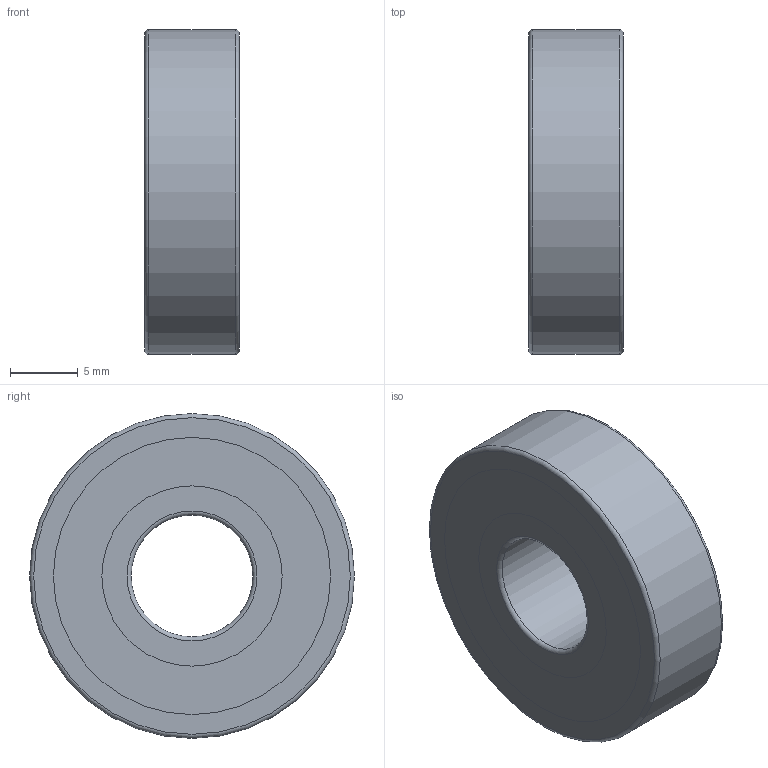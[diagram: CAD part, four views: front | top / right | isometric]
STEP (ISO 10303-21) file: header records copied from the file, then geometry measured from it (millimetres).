
FILE_DESCRIPTION(/* description */ (''),/* implementation_level */ '2;1');
FILE_NAME(/* name */ 'D:\moje\parametrické\62-,60-\rada 62-,60-2RSR,ZR\62-,60--2RSR\609-2RSR.stp',/* time_stamp */ '2016-04-04T13:26:14+02:00',/* author */ ('OUBALASKO'),/* organization */ (''),/* preprocessor_version */ 'ST-DEVELOPER v15.2',/* originating_system */ 'Autodesk Inventor 2014',/* authorisation */ '');
FILE_SCHEMA (('AUTOMOTIVE_DESIGN { 1 0 10303 214 3 1 1 }'));
Length unit declared in the file: millimetre
Products named in the file (6): 609-02-2RSR; 609-ball; 609-cage; 609-01-2RSR; 609-seal-RSR,ZR; 609-2RSR
Bounding box: 7 x 24 x 24 mm (x, y, z)
Volume: 1925.1 mm3; surface area: 3522.2 mm2
Topology: 14 solids, 14 shells, 104 faces, 366 edges, 240 vertices
Faces by surface type: plane 42, sphere 40, cylinder 16, torus 6
Full cylindrical faces by diameter (mm): 9 x1, 13.325 x4, 15.309 x2, 17.691 x2, 19.675 x2, 20.475 x4, 24 x1
Entity records: 2464 total; most frequent: CARTESIAN_POINT 962, DIRECTION 336, ORIENTED_EDGE 242, AXIS2_PLACEMENT_3D 168, EDGE_CURVE 121, VERTEX_POINT 90, CIRCLE 89, EDGE_LOOP 85
